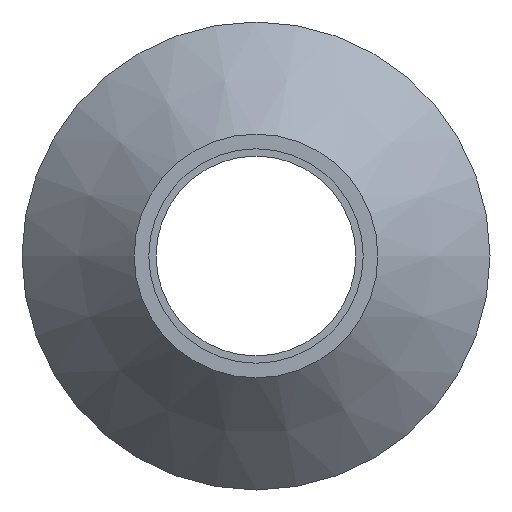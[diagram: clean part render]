
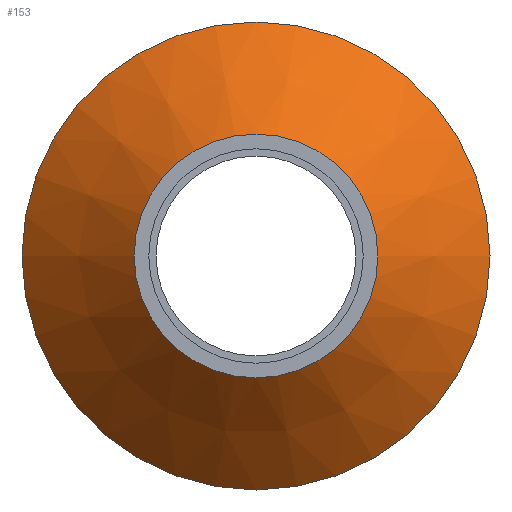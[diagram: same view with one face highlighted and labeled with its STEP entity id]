
A CAD part, left-side view. The second image highlights one B-rep face of the part: STEP entity #153.
In plain terms, the highlighted conical face has half-angle 45 degrees and reference radius 36.5 mm.
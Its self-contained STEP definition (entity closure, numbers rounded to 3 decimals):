
#32=FACE_BOUND($,#69,.T.);
#46=FACE_OUTER_BOUND($,#68,.T.);
#68=EDGE_LOOP($,(#133));
#69=EDGE_LOOP($,(#134));
#84=CIRCLE($,#179,25.);
#85=CIRCLE($,#181,48.);
#97=VERTEX_POINT($,#270);
#98=VERTEX_POINT($,#273);
#110=EDGE_CURVE($,#97,#97,#84,.T.);
#111=EDGE_CURVE($,#98,#98,#85,.T.);
#133=ORIENTED_EDGE($,*,*,#111,.F.);
#134=ORIENTED_EDGE($,*,*,#110,.T.);
#142=CONICAL_SURFACE($,#180,36.5,45.);
#153=ADVANCED_FACE($,(#46,#32),#142,.T.);
#179=AXIS2_PLACEMENT_3D($,#271,#227,#228);
#180=AXIS2_PLACEMENT_3D($,#272,#229,#230);
#181=AXIS2_PLACEMENT_3D($,#274,#231,#232);
#227=DIRECTION('center_axis',(1.,0.,0.));
#228=DIRECTION('ref_axis',(0.,1.,0.));
#229=DIRECTION('center_axis',(1.,0.,0.));
#230=DIRECTION('ref_axis',(0.,1.,0.));
#231=DIRECTION('center_axis',(1.,0.,0.));
#232=DIRECTION('ref_axis',(0.,1.,0.));
#270=CARTESIAN_POINT('',(201.,25.,0.));
#271=CARTESIAN_POINT('Origin',(201.,0.,0.));
#272=CARTESIAN_POINT('Origin',(212.5,0.,0.));
#273=CARTESIAN_POINT('',(224.,48.,0.));
#274=CARTESIAN_POINT('Origin',(224.,0.,0.));
